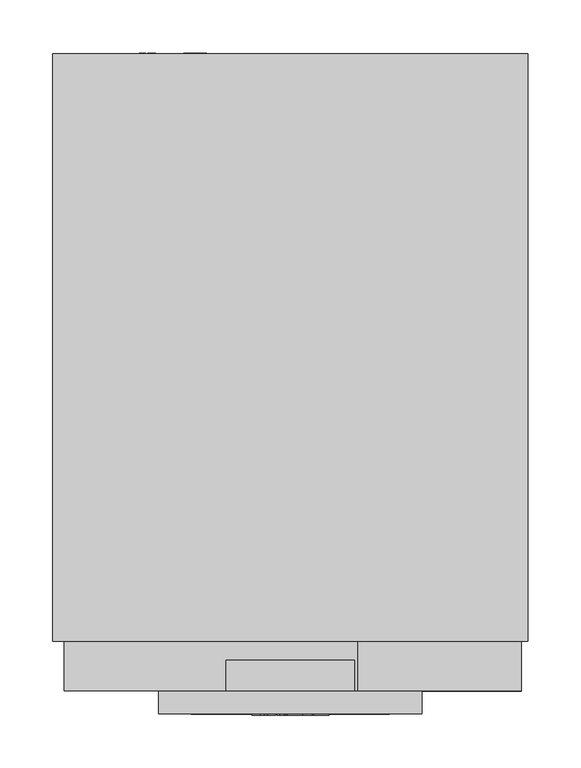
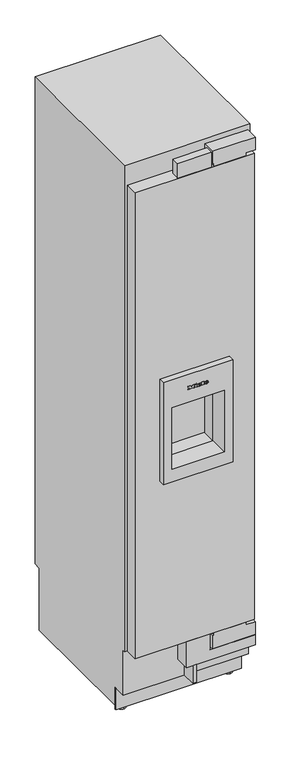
"""IFC4 building model written with IfcOpenShell, lengths in millimetres: proxy geometry, 11503420_USA_F2462Vi : 37246201_USA_11503420_F2462Vi."""

from ifc_helpers import new_model, si_unit, point, frame, frame_2d, origin, place, context, project, spatial, polyline, circle_curve, ellipse_curve, trimmed, segment, composite_curve, outline, extrude, faceted_brep, source, transform, mapped, element, save
from ifc_brep_helpers import plane_surface, cylinder_surface, revolved_surface, extruded_surface, advanced_brep


def specialty_equipment_a8662d09(model_context):
    return source(origin(), model_context, "Body", "SolidModel", [
        extrude(outline(polyline([(-6.5, 54.0), (6.5, 54.0), (6.5, 0.0), (-6.5, 0.0), (-6.5, 54.0)])), frame((0.0, 0.0, 99.0), z_axis=(0.0, 0.0, 1.0), x_axis=(1.0, 0.0, 0.0)), (0.0, 0.0, 1.0), 67.0),
        faceted_brep([(125.0, -21.7, 1295.0), (-125.0, -21.7, 1295.0), (-125.0, -21.7, 908.0), (125.0, -21.7, 908.0), (94.0, -21.7, 1190.0), (94.0, -21.7, 956.0), (-94.0, -21.7, 956.0), (-94.0, -21.7, 1190.0), (125.0, 47.0, 1295.0), (125.0, 47.0, 908.0), (-125.0, 47.0, 908.0), (-125.0, 47.0, 1295.0), (94.0, 47.0, 1190.0), (-94.0, 47.0, 1190.0), (-94.0, 47.0, 956.0), (94.0, 47.0, 956.0), (-94.0, -11.7943775, 1190.0), (94.0, -11.7943775, 1190.0), (-94.0, -11.7943775, 956.0), (94.0, -11.7943775, 956.0)], [[[0, 1, 2, 3], [4, 5, 6, 7]], [[8, 9, 10, 11], [12, 13, 14, 15]], [[0, 3, 9, 8]], [[3, 2, 10, 9]], [[2, 1, 11, 10]], [[1, 0, 8, 11]], [[4, 7, 16, 13, 12, 17]], [[7, 6, 18, 14, 13, 16]], [[6, 5, 19, 15, 14, 18]], [[5, 4, 17, 12, 15, 19]]]),
        extrude(outline(polyline([(2036.0, 214.5), (2036.0, -214.5), (265.0, -214.5), (265.0, 214.5), (2036.0, 214.5)]), holes=[polyline([(1295.0, 125.0), (908.0, 125.0), (908.0, -125.0), (1295.0, -125.0), (1295.0, 125.0)])]), frame((0.0, 0.0, 0.0), z_axis=(0.0, 1.0, 0.0), x_axis=(0.0, 0.0, 1.0)), (0.0, 0.0, 1.0), 47.0),
        faceted_brep([(-158.0, 47.0, 863.0), (-158.0, 47.0, 1335.0), (-158.0, 239.0, 1335.0), (-158.0, 239.0, 987.0), (-158.0, 140.0, 863.0), (158.0, 47.0, 863.0), (158.0, 140.0, 863.0), (158.0, 239.0, 987.0), (158.0, 239.0, 1335.0), (158.0, 47.0, 1335.0), (94.0, 47.0, 1190.0), (94.0, 47.0, 956.0), (-94.0, 47.0, 956.0), (-94.0, 47.0, 1190.0), (94.0, 100.0, 1190.0), (-94.0, 100.0, 1190.0), (-94.0, 100.0, 956.0), (94.0, 100.0, 956.0)], [[[0, 1, 2, 3, 4]], [[5, 6, 7, 8, 9]], [[0, 4, 6, 5]], [[4, 3, 7, 6]], [[3, 2, 8, 7]], [[2, 1, 9, 8]], [[1, 0, 5, 9], [10, 11, 12, 13]], [[14, 15, 16, 17]], [[14, 17, 11, 10]], [[17, 16, 12, 11]], [[16, 15, 13, 12]], [[15, 14, 10, 13]]]),
        extrude(outline(polyline([(-61.0, 29.0), (61.0, 29.0), (61.0, 0.0), (-61.0, 0.0), (-61.0, 29.0)])), frame((0.0, 0.0, 2036.0), z_axis=(0.0, 0.0, 1.0), x_axis=(1.0, 0.0, 0.0)), (0.0, 0.0, 1.0), 56.0),
        advanced_brep(
        [(28.472, -22.7, 1241.344), (28.472, -22.7, 1242.556), (36.5, -22.7, 1242.556), (22.532, -22.7, 1242.556), (25.832, -22.7, 1238.5), (36.296, -22.7, 1241.344), (32.672, -22.7, 1241.344), (29.816, -22.7, 1240.0), (28.472, -22.7, 1244.092), (28.472, -22.7, 1245.4), (30.524, -22.7, 1245.4), (30.524, -22.7, 1244.092), (28.472, -21.7, 1241.344), (29.816, -21.7, 1240.0), (32.672, -21.7, 1241.344), (36.296, -21.7, 1241.344), (25.832, -21.7, 1238.5), (22.532, -21.7, 1242.556), (36.5, -21.7, 1242.556), (28.472, -21.7, 1242.556), (28.472, -21.7, 1244.092), (30.524, -21.7, 1244.092), (30.524, -21.7, 1245.4), (28.472, -21.7, 1245.4)],
        [
            (0, 1),
            (1, 2),
            (2, 3, ellipse_curve(frame((29.516, -22.7, 1242.556), z_axis=(0.0, -1.0, 0.0), x_axis=(-1.0, 0.0, 0.0)), 6.984, 5.772)),
            (3, 4, circle_curve(frame((27.1760655, -22.7, 1242.964), z_axis=(0.0, -1.0, 0.0), x_axis=(0.0, 0.0, -1.0)), 4.6619532)),
            (4, 5, circle_curve(frame((29.3761904, -22.7, 1246.132), z_axis=(0.0, -1.0, 0.0), x_axis=(0.0, 0.0, -1.0)), 8.4147911)),
            (5, 6),
            (6, 7, circle_curve(frame((30.4025882, -22.7, 1242.46), z_axis=(0.0, 1.0, 0.0), x_axis=(0.0, 0.0, -1.0)), 2.5289693)),
            (7, 0, circle_curve(frame((29.816, -22.7, 1241.344), z_axis=(0.0, 1.0, 0.0), x_axis=(0.0, 0.0, -1.0)), 1.344)),
            (8, 9),
            (9, 10, circle_curve(frame((29.498, -22.7, 1245.4), z_axis=(0.0, 1.0, 0.0), x_axis=(0.0, 0.0, -1.0)), 1.026)),
            (10, 11),
            (11, 8),
            (12, 13, circle_curve(frame((29.816, -21.7, 1241.344), z_axis=(0.0, -1.0, 0.0), x_axis=(0.0, 0.0, -1.0)), 1.344)),
            (13, 14, circle_curve(frame((30.4025882, -21.7, 1242.46), z_axis=(0.0, -1.0, 0.0), x_axis=(0.0, 0.0, -1.0)), 2.5289693)),
            (14, 15),
            (15, 16, circle_curve(frame((29.3761904, -21.7, 1246.132), z_axis=(0.0, 1.0, 0.0), x_axis=(0.0, 0.0, -1.0)), 8.4147911)),
            (16, 17, circle_curve(frame((27.1760655, -21.7, 1242.964), z_axis=(0.0, 1.0, 0.0), x_axis=(0.0, 0.0, -1.0)), 4.6619532)),
            (17, 18, ellipse_curve(frame((29.516, -21.7, 1242.556), z_axis=(0.0, 1.0, 0.0), x_axis=(-1.0, 0.0, 0.0)), 6.984, 5.772)),
            (18, 19),
            (19, 12),
            (20, 21),
            (21, 22),
            (22, 23, circle_curve(frame((29.498, -21.7, 1245.4), z_axis=(0.0, -1.0, 0.0), x_axis=(0.0, 0.0, -1.0)), 1.026)),
            (23, 20),
            (0, 12),
            (19, 1),
            (18, 2),
            (5, 15),
            (14, 6),
            (17, 3),
            (13, 7),
            (16, 4),
            (8, 20),
            (23, 9),
            (22, 10),
            (21, 11),
        ],
        [
            plane_surface(frame((28.472, -22.7, 1242.556), z_axis=(0.0, -1.0, 0.0), x_axis=(0.0, 0.0, 1.0))),
            plane_surface(frame((28.472, -21.7, 1242.556), z_axis=(0.0, 1.0, 0.0), x_axis=(0.0, 0.0, -1.0))),
            plane_surface(frame((28.472, -22.7, 1241.344), z_axis=(1.0, 0.0, 0.0), x_axis=(0.0, 1.0, 0.0))),
            plane_surface(frame((28.472, -22.7, 1242.556), z_axis=(0.0, 0.0, -1.0), x_axis=(0.0, 1.0, 0.0))),
            plane_surface(frame((36.296, -22.7, 1241.344), z_axis=(0.0, 0.0, 1.0), x_axis=(0.0, 1.0, 0.0))),
            extruded_surface(trimmed(ellipse_curve(frame((29.516, -20.7, 1242.556), z_axis=(0.0, -1.0, 0.0), x_axis=(-1.0, 0.0, 0.0)), 6.984, 5.772), [point((36.5, -20.7, 1242.556))], [point((22.532, -20.7, 1242.556))], True, "CARTESIAN"), (0.0, -1.0, 0.0), 1.0),
            revolved_surface(polyline([(30.4025882, -21.7, 1239.9310307), (30.4025882, -22.7, 1239.9310307)]), (30.4025882, -21.7, 1242.46), (0.0, 1.0, 0.0)),
            revolved_surface(polyline([(29.816, -21.7, 1240.0), (29.816, -22.7, 1240.0)]), (29.816, -21.7, 1241.344), (0.0, 1.0, 0.0)),
            cylinder_surface(frame((27.1760655, -21.7, 1242.964), z_axis=(0.0, -1.0, 0.0), x_axis=(0.0, 0.0, -1.0)), 4.6619532),
            cylinder_surface(frame((29.3761904, -21.7, 1246.132), z_axis=(0.0, -1.0, 0.0), x_axis=(0.0, 0.0, -1.0)), 8.4147911),
            plane_surface(frame((28.472, -22.7, 1244.092), z_axis=(1.0, 0.0, 0.0), x_axis=(0.0, 1.0, 0.0))),
            revolved_surface(polyline([(29.498, -21.7, 1244.374), (29.498, -22.7, 1244.374)]), (29.498, -21.7, 1245.4), (0.0, 1.0, 0.0)),
            plane_surface(frame((30.524, -22.7, 1245.4), z_axis=(-1.0, 0.0, 0.0), x_axis=(0.0, 1.0, 0.0))),
            plane_surface(frame((30.524, -22.7, 1244.092), z_axis=(0.0, 0.0, 1.0), x_axis=(0.0, 1.0, 0.0))),
        ],
        [
            (0, [[1, 2, 3, 4, 5, 6, 7, 8], [9, 10, 11, 12]]),
            (1, [[13, 14, 15, 16, 17, 18, 19, 20], [21, 22, 23, 24]]),
            (2, [[-1, 25, -20, 26]]),
            (3, [[-2, -26, -19, 27]]),
            (4, [[-6, 28, -15, 29]]),
            (5, [[-3, -27, -18, 30]]),
            (6, [[-7, -29, -14, 31]]),
            (7, [[-8, -31, -13, -25]]),
            (8, [[-4, -30, -17, 32]]),
            (9, [[-5, -32, -16, -28]]),
            (10, [[-9, 33, -24, 34]]),
            (11, [[-10, -34, -23, 35]]),
            (12, [[-11, -35, -22, 36]]),
            (13, [[-12, -36, -21, -33]]),
        ],
    ),
        advanced_brep(
        [(3.428, -22.7, 1241.344), (3.428, -22.7, 1242.556), (11.456, -22.7, 1242.556), (-2.512, -22.7, 1242.556), (0.788, -22.7, 1238.5), (11.252, -22.7, 1241.344), (7.628, -22.7, 1241.344), (4.772, -22.7, 1240.0), (3.428, -22.7, 1244.092), (3.428, -22.7, 1245.4), (5.48, -22.7, 1245.4), (5.48, -22.7, 1244.092), (3.428, -21.7, 1241.344), (4.772, -21.7, 1240.0), (7.628, -21.7, 1241.344), (11.252, -21.7, 1241.344), (0.788, -21.7, 1238.5), (-2.512, -21.7, 1242.556), (11.456, -21.7, 1242.556), (3.428, -21.7, 1242.556), (3.428, -21.7, 1244.092), (5.48, -21.7, 1244.092), (5.48, -21.7, 1245.4), (3.428, -21.7, 1245.4)],
        [
            (0, 1),
            (1, 2),
            (2, 3, ellipse_curve(frame((4.472, -22.7, 1242.556), z_axis=(0.0, -1.0, 0.0), x_axis=(-1.0, 0.0, 0.0)), 6.984, 5.772)),
            (3, 4, circle_curve(frame((2.1320655, -22.7, 1242.964), z_axis=(0.0, -1.0, 0.0), x_axis=(0.0, 0.0, -1.0)), 4.6619532)),
            (4, 5, circle_curve(frame((4.3321904, -22.7, 1246.132), z_axis=(0.0, -1.0, 0.0), x_axis=(0.0, 0.0, -1.0)), 8.4147911)),
            (5, 6),
            (6, 7, circle_curve(frame((5.3585882, -22.7, 1242.46), z_axis=(0.0, 1.0, 0.0), x_axis=(0.0, 0.0, -1.0)), 2.5289693)),
            (7, 0, circle_curve(frame((4.772, -22.7, 1241.344), z_axis=(0.0, 1.0, 0.0), x_axis=(0.0, 0.0, -1.0)), 1.344)),
            (8, 9),
            (9, 10, circle_curve(frame((4.454, -22.7, 1245.4), z_axis=(0.0, 1.0, 0.0), x_axis=(0.0, 0.0, -1.0)), 1.026)),
            (10, 11),
            (11, 8),
            (12, 13, circle_curve(frame((4.772, -21.7, 1241.344), z_axis=(0.0, -1.0, 0.0), x_axis=(0.0, 0.0, -1.0)), 1.344)),
            (13, 14, circle_curve(frame((5.3585882, -21.7, 1242.46), z_axis=(0.0, -1.0, 0.0), x_axis=(0.0, 0.0, -1.0)), 2.5289693)),
            (14, 15),
            (15, 16, circle_curve(frame((4.3321904, -21.7, 1246.132), z_axis=(0.0, 1.0, 0.0), x_axis=(0.0, 0.0, -1.0)), 8.4147911)),
            (16, 17, circle_curve(frame((2.1320655, -21.7, 1242.964), z_axis=(0.0, 1.0, 0.0), x_axis=(0.0, 0.0, -1.0)), 4.6619532)),
            (17, 18, ellipse_curve(frame((4.472, -21.7, 1242.556), z_axis=(0.0, 1.0, 0.0), x_axis=(-1.0, 0.0, 0.0)), 6.984, 5.772)),
            (18, 19),
            (19, 12),
            (20, 21),
            (21, 22),
            (22, 23, circle_curve(frame((4.454, -21.7, 1245.4), z_axis=(0.0, -1.0, 0.0), x_axis=(0.0, 0.0, -1.0)), 1.026)),
            (23, 20),
            (0, 12),
            (19, 1),
            (18, 2),
            (5, 15),
            (14, 6),
            (17, 3),
            (13, 7),
            (16, 4),
            (8, 20),
            (23, 9),
            (22, 10),
            (21, 11),
        ],
        [
            plane_surface(frame((3.428, -22.7, 1242.556), z_axis=(0.0, -1.0, 0.0), x_axis=(0.0, 0.0, 1.0))),
            plane_surface(frame((3.428, -21.7, 1242.556), z_axis=(0.0, 1.0, 0.0), x_axis=(0.0, 0.0, -1.0))),
            plane_surface(frame((3.428, -22.7, 1241.344), z_axis=(1.0, 0.0, 0.0), x_axis=(0.0, 1.0, 0.0))),
            plane_surface(frame((3.428, -22.7, 1242.556), z_axis=(0.0, 0.0, -1.0), x_axis=(0.0, 1.0, 0.0))),
            plane_surface(frame((11.252, -22.7, 1241.344), z_axis=(0.0, 0.0, 1.0), x_axis=(0.0, 1.0, 0.0))),
            extruded_surface(trimmed(ellipse_curve(frame((4.472, -20.7, 1242.556), z_axis=(0.0, -1.0, 0.0), x_axis=(-1.0, 0.0, 0.0)), 6.984, 5.772), [point((11.456, -20.7, 1242.556))], [point((-2.512, -20.7, 1242.556))], True, "CARTESIAN"), (0.0, -1.0, 0.0), 1.0),
            revolved_surface(polyline([(5.3585882, -21.7, 1239.9310307), (5.3585882, -22.7, 1239.9310307)]), (5.3585882, -21.7, 1242.46), (0.0, 1.0, 0.0)),
            revolved_surface(polyline([(4.772, -21.7, 1240.0), (4.772, -22.7, 1240.0)]), (4.772, -21.7, 1241.344), (0.0, 1.0, 0.0)),
            cylinder_surface(frame((2.1320655, -21.7, 1242.964), z_axis=(0.0, -1.0, 0.0), x_axis=(0.0, 0.0, -1.0)), 4.6619532),
            cylinder_surface(frame((4.3321904, -21.7, 1246.132), z_axis=(0.0, -1.0, 0.0), x_axis=(0.0, 0.0, -1.0)), 8.4147911),
            plane_surface(frame((3.428, -22.7, 1244.092), z_axis=(1.0, 0.0, 0.0), x_axis=(0.0, 1.0, 0.0))),
            revolved_surface(polyline([(4.454, -21.7, 1244.374), (4.454, -22.7, 1244.374)]), (4.454, -21.7, 1245.4), (0.0, 1.0, 0.0)),
            plane_surface(frame((5.48, -22.7, 1245.4), z_axis=(-1.0, 0.0, 0.0), x_axis=(0.0, 1.0, 0.0))),
            plane_surface(frame((5.48, -22.7, 1244.092), z_axis=(0.0, 0.0, 1.0), x_axis=(0.0, 1.0, 0.0))),
        ],
        [
            (0, [[1, 2, 3, 4, 5, 6, 7, 8], [9, 10, 11, 12]]),
            (1, [[13, 14, 15, 16, 17, 18, 19, 20], [21, 22, 23, 24]]),
            (2, [[-1, 25, -20, 26]]),
            (3, [[-2, -26, -19, 27]]),
            (4, [[-6, 28, -15, 29]]),
            (5, [[-3, -27, -18, 30]]),
            (6, [[-7, -29, -14, 31]]),
            (7, [[-8, -31, -13, -25]]),
            (8, [[-4, -30, -17, 32]]),
            (9, [[-5, -32, -16, -28]]),
            (10, [[-9, 33, -24, 34]]),
            (11, [[-10, -34, -23, 35]]),
            (12, [[-11, -35, -22, 36]]),
            (13, [[-12, -36, -21, -33]]),
        ],
    ),
        extrude(outline(polyline([(1249.792, -9.688), (1247.848, -8.776), (1249.744, -4.708), (1251.688, -5.608), (1249.792, -9.688)])), frame((0.0, -22.7, 0.0), z_axis=(0.0, 1.0, 0.0), x_axis=(0.0, 0.0, 1.0)), (0.0, 0.0, 1.0), 1.0),
        extrude(outline(polyline([(1247.584, -12.652), (1245.436, -12.652), (1245.436, -11.224), (1240.516, -11.224), (1240.516, -12.652), (1238.5, -12.652), (1238.5, -3.184), (1240.516, -3.184), (1240.516, -4.576), (1247.584, -4.576), (1247.584, -12.652)])), frame((0.0, -22.7, 0.0), z_axis=(0.0, 1.0, 0.0), x_axis=(0.0, 0.0, 1.0)), (0.0, 0.0, 1.0), 1.0),
        extrude(outline(polyline([(1248.544, 12.128), (1248.544, 13.568), (1240.516, 13.568), (1240.516, 12.128), (1238.5, 12.128), (1238.5, 21.86), (1240.516, 21.86), (1240.516, 20.384), (1250.5, 20.384), (1250.5, 12.128), (1248.544, 12.128)])), frame((0.0, -22.7, 0.0), z_axis=(0.0, 1.0, 0.0), x_axis=(0.0, 0.0, 1.0)), (0.0, 0.0, 1.0), 1.0),
        extrude(outline(polyline([(1248.544, -36.568), (1248.544, -35.116), (1240.516, -35.116), (1240.516, -36.568), (1238.5, -36.568), (1238.5, -31.288), (1240.516, -31.288), (1240.516, -32.728), (1245.5951247, -32.728), (1238.5, -27.364), (1245.8152223, -21.976), (1240.516, -21.976), (1240.516, -23.452), (1238.5, -23.452), (1238.5, -13.876), (1240.516, -13.876), (1240.516, -15.4), (1248.544, -15.4), (1248.544, -13.876), (1250.5, -13.876), (1250.5, -21.184), (1246.0, -24.688), (1250.5, -28.204), (1250.5, -36.568), (1248.544, -36.568)])), frame((0.0, -22.7, 0.0), z_axis=(0.0, 1.0, 0.0), x_axis=(0.0, 0.0, 1.0)), (0.0, 0.0, 1.0), 1.0),
        extrude(outline(polyline([(519.0, 1998.0), (519.0, 1799.0), (447.0526316, 1799.0), (422.0, 1867.0), (201.7448904, 1867.0), (157.0, 1939.0), (87.0, 1949.0), (87.0, 1998.0), (519.0, 1998.0)])), frame((-179.5, 0.0, 0.0), z_axis=(1.0, 0.0, 0.0), x_axis=(0.0, 1.0, 0.0)), (0.0, 0.0, 1.0), 359.0),
        extrude(outline(polyline([(196.9886114, 1875.0), (195.809433, 1875.0), (158.6921935, 1934.4), (159.8713719, 1934.4), (196.9886114, 1875.0)])), frame((-69.0, 0.0, 0.0), z_axis=(1.0, 0.0, 0.0), x_axis=(0.0, 1.0, 0.0)), (0.0, 0.0, 1.0), 138.0),
        extrude(outline(polyline([(46.0510837, -89.101717), (37.4134902, -91.1745179), (46.0453554, -93.6868463), (46.0453554, -95.5601414), (37.4089549, -98.0799633), (46.0493903, -100.1581876), (46.0493903, -101.4649805), (36.0005458, -98.7156324), (36.0005458, -97.372208), (44.8261022, -94.6342221), (35.9987467, -92.0620509), (35.9987287, -90.5451466), (46.0510837, -87.800191), (46.0510837, -89.101717)])), frame((0.0, 604.0, 0.0), z_axis=(0.0, 1.0, 0.0), x_axis=(0.0, 0.0, 1.0)), (0.0, 0.0, 1.0), 1.0),
        extrude(outline(polyline([(46.0485238, -80.7401503), (41.1363122, -80.7401503), (46.0468162, -85.884602), (46.0468162, -87.6328316), (41.9156889, -83.3260313), (36.000035, -87.8032231), (36.000035, -86.2795519), (41.0742849, -82.4391666), (39.4525334, -80.7395503), (35.9999292, -80.7395503), (35.9999292, -79.4795491), (46.0485238, -79.4795491), (46.0485238, -80.7401503)])), frame((0.0, 604.0, 0.0), z_axis=(0.0, 1.0, 0.0), x_axis=(0.0, 0.0, 1.0)), (0.0, 0.0, 1.0), 1.0),
        extrude(outline(composite_curve([segment(trimmed(circle_curve(frame_2d((41.0, -90.0)), 7.5), [point((33.5, -90.0))], [point((48.5, -90.0))], False, "CARTESIAN"), True, "CONTINUOUS"), segment(trimmed(circle_curve(frame_2d((41.0, -90.0)), 7.5), [point((48.5, -90.0))], [point((33.5, -90.0))], False, "CARTESIAN"), True, "CONTINUOUS")], self_intersect=False)), frame((0.0, 577.0, 0.0), z_axis=(0.0, 1.0, 0.0), x_axis=(0.0, 0.0, 1.0)), (0.0, 0.0, 1.0), 27.0),
        extrude(outline(polyline([(2095.0, 219.0), (2095.0, 64.0), (2047.0, 64.0), (2047.0, 70.0), (2036.5, 70.0), (2036.5, 185.0), (2047.0, 185.0), (2047.0, 219.0), (2095.0, 219.0)])), frame((0.0, 0.0, 0.0), z_axis=(0.0, 1.0, 0.0), x_axis=(0.0, 0.0, 1.0)), (0.0, 0.0, 1.0), 47.0),
        extrude(outline(polyline([(254.0, 64.0), (206.0, 64.0), (206.0, 219.0), (254.0, 219.0), (254.0, 185.0), (264.0, 185.0), (264.0, 70.0), (254.0, 70.0), (254.0, 64.0)])), frame((0.0, 0.0, 0.0), z_axis=(0.0, 1.0, 0.0), x_axis=(0.0, 0.0, 1.0)), (0.0, 0.0, 1.0), 54.0),
        extrude(outline(polyline([(166.0, -28.5), (166.0, 219.0), (205.0, 219.0), (205.0, 55.5), (265.0, 55.5), (265.0, -28.5), (166.0, -28.5)])), frame((0.0, 0.0, 0.0), z_axis=(0.0, 1.0, 0.0), x_axis=(0.0, 0.0, 1.0)), (0.0, 0.0, 1.0), 54.0),
        extrude(outline(polyline([(99.0373308, -135.2645771), (97.7615342, -135.2645771), (97.7615342, -129.3195541), (94.7968516, -129.3195541), (94.7968516, -134.969579), (93.5246295, -134.969579), (93.5246295, -129.3415693), (90.2570046, -129.3415693), (90.2570046, -135.4619689), (88.9546219, -135.4619689), (88.9546219, -128.0443524), (99.0373308, -128.0443524), (99.0373308, -135.2645771)])), frame((0.0, 604.0, 0.0), z_axis=(0.0, 1.0, 0.0), x_axis=(0.0, 0.0, 1.0)), (0.0, 0.0, 1.0), 1.0),
        extrude(outline(polyline([(99.0458, -138.5619704), (90.2663944, -138.5619704), (90.2663944, -143.6145879), (89.0134802, -143.6145879), (89.0134802, -137.3423809), (99.0458, -137.3423809), (99.0458, -138.5619704)])), frame((0.0, 604.0, 0.0), z_axis=(0.0, 1.0, 0.0), x_axis=(0.0, 0.0, 1.0)), (0.0, 0.0, 1.0), 1.0),
        extrude(outline(composite_curve([segment(trimmed(circle_curve(frame_2d((94.0, -135.5)), 7.5), [point((86.5, -135.5))], [point((101.5, -135.5))], False, "CARTESIAN"), True, "CONTINUOUS"), segment(trimmed(circle_curve(frame_2d((94.0, -135.5)), 7.5), [point((101.5, -135.5))], [point((86.5, -135.5))], False, "CARTESIAN"), True, "CONTINUOUS")], self_intersect=False)), frame((0.0, 577.0, 0.0), z_axis=(0.0, 1.0, 0.0), x_axis=(0.0, 0.0, 1.0)), (0.0, 0.0, 1.0), 27.0),
        extrude(outline(polyline([(-225.5, 104.0), (225.5, 104.0), (225.5, 99.0), (-225.5, 99.0), (-225.5, 104.0)])), frame((0.0, 0.0, 14.0), z_axis=(0.0, 0.0, 1.0), x_axis=(1.0, 0.0, 0.0)), (0.0, 0.0, 1.0), 83.0),
        advanced_brep(
        [(-191.5, 139.0, 0.0), (-191.5, 109.0, 0.0), (-191.5, 139.0, 7.0), (-191.5, 109.0, 7.0), (-191.5, 128.7, 7.0), (-191.5, 119.3, 7.0), (-191.5, 128.7, 28.0), (-191.5, 119.3, 28.0)],
        [
            (0, 1, circle_curve(frame((-191.5, 124.0, 0.0), z_axis=(0.0, 0.0, -1.0), x_axis=(1.0, 0.0, 0.0)), 15.0)),
            (1, 0, circle_curve(frame((-191.5, 124.0, 0.0), z_axis=(0.0, 0.0, -1.0), x_axis=(1.0, 0.0, 0.0)), 15.0)),
            (2, 3, circle_curve(frame((-191.5, 124.0, 7.0), z_axis=(0.0, 0.0, 1.0), x_axis=(1.0, 0.0, 0.0)), 15.0)),
            (3, 2, circle_curve(frame((-191.5, 124.0, 7.0), z_axis=(0.0, 0.0, 1.0), x_axis=(1.0, 0.0, 0.0)), 15.0)),
            (4, 5, circle_curve(frame((-191.5, 124.0, 7.0), z_axis=(0.0, 0.0, -1.0), x_axis=(0.0, -1.0, 0.0)), 4.7)),
            (5, 4, circle_curve(frame((-191.5, 124.0, 7.0), z_axis=(0.0, 0.0, -1.0), x_axis=(0.0, -1.0, 0.0)), 4.7)),
            (0, 2),
            (3, 1),
            (6, 7, circle_curve(frame((-191.5, 124.0, 28.0), z_axis=(0.0, 0.0, 1.0), x_axis=(0.0, -1.0, 0.0)), 4.7)),
            (7, 6, circle_curve(frame((-191.5, 124.0, 28.0), z_axis=(0.0, 0.0, 1.0), x_axis=(0.0, -1.0, 0.0)), 4.7)),
            (7, 5),
            (4, 6),
        ],
        [
            plane_surface(frame((-176.5, 124.0, 0.0), z_axis=(0.0, 0.0, -1.0), x_axis=(0.0, -1.0, 0.0))),
            plane_surface(frame((-176.5, 124.0, 7.0), z_axis=(0.0, 0.0, 1.0), x_axis=(0.0, 1.0, 0.0))),
            cylinder_surface(frame((-191.5, 124.0, 7.0), z_axis=(0.0, 0.0, -1.0), x_axis=(1.0, 0.0, 0.0)), 15.0),
            plane_surface(frame((-191.5, 119.3, 28.0), z_axis=(0.0, 0.0, 1.0), x_axis=(1.0, 0.0, 0.0))),
            cylinder_surface(frame((-191.5, 124.0, 28.0), z_axis=(0.0, 0.0, -1.0), x_axis=(0.0, -1.0, 0.0)), 4.7),
        ],
        [
            (0, [[1, 2]]),
            (1, [[3, 4], [5, 6]]),
            (2, [[-1, 7, -4, 8]]),
            (2, [[-2, -8, -3, -7]]),
            (3, [[9, 10]]),
            (4, [[-10, 11, -5, 12]]),
            (4, [[-9, -12, -6, -11]]),
        ],
    ),
        advanced_brep(
        [(191.5, 139.0, 0.0), (191.5, 109.0, 0.0), (191.5, 139.0, 7.0), (191.5, 109.0, 7.0), (191.5, 128.7, 7.0), (191.5, 119.3, 7.0), (191.5, 128.7, 28.0), (191.5, 119.3, 28.0)],
        [
            (0, 1, circle_curve(frame((191.5, 124.0, 0.0), z_axis=(0.0, 0.0, -1.0), x_axis=(1.0, 0.0, 0.0)), 15.0)),
            (1, 0, circle_curve(frame((191.5, 124.0, 0.0), z_axis=(0.0, 0.0, -1.0), x_axis=(1.0, 0.0, 0.0)), 15.0)),
            (2, 3, circle_curve(frame((191.5, 124.0, 7.0), z_axis=(0.0, 0.0, 1.0), x_axis=(1.0, 0.0, 0.0)), 15.0)),
            (3, 2, circle_curve(frame((191.5, 124.0, 7.0), z_axis=(0.0, 0.0, 1.0), x_axis=(1.0, 0.0, 0.0)), 15.0)),
            (4, 5, circle_curve(frame((191.5, 124.0, 7.0), z_axis=(0.0, 0.0, -1.0), x_axis=(0.0, -1.0, 0.0)), 4.7)),
            (5, 4, circle_curve(frame((191.5, 124.0, 7.0), z_axis=(0.0, 0.0, -1.0), x_axis=(0.0, -1.0, 0.0)), 4.7)),
            (0, 2),
            (3, 1),
            (6, 7, circle_curve(frame((191.5, 124.0, 28.0), z_axis=(0.0, 0.0, 1.0), x_axis=(0.0, -1.0, 0.0)), 4.7)),
            (7, 6, circle_curve(frame((191.5, 124.0, 28.0), z_axis=(0.0, 0.0, 1.0), x_axis=(0.0, -1.0, 0.0)), 4.7)),
            (7, 5),
            (4, 6),
        ],
        [
            plane_surface(frame((-176.5, 124.0, 0.0), z_axis=(0.0, 0.0, -1.0), x_axis=(0.0, -1.0, 0.0))),
            plane_surface(frame((-176.5, 124.0, 7.0), z_axis=(0.0, 0.0, 1.0), x_axis=(0.0, 1.0, 0.0))),
            cylinder_surface(frame((191.5, 124.0, 7.0), z_axis=(0.0, 0.0, -1.0), x_axis=(1.0, 0.0, 0.0)), 15.0),
            plane_surface(frame((-191.5, 119.3, 28.0), z_axis=(0.0, 0.0, 1.0), x_axis=(1.0, 0.0, 0.0))),
            cylinder_surface(frame((191.5, 124.0, 28.0), z_axis=(0.0, 0.0, -1.0), x_axis=(0.0, -1.0, 0.0)), 4.7),
        ],
        [
            (0, [[1, 2]]),
            (1, [[3, 4], [5, 6]]),
            (2, [[-1, 7, -4, 8]]),
            (2, [[-2, -8, -3, -7]]),
            (3, [[9, 10]]),
            (4, [[-10, 11, -5, 12]]),
            (4, [[-9, -12, -6, -11]]),
        ],
    ),
        advanced_brep(
        [(225.5, 47.0, 2114.0), (225.5, 47.0, 267.0), (225.5, 54.0, 267.0), (225.5, 54.0, 97.0), (225.5, 104.0, 97.0), (225.5, 104.0, 28.0), (225.5, 577.0, 28.0), (225.5, 577.0, 263.0), (225.5, 604.0, 263.0), (225.5, 604.0, 2114.0), (-225.5, 47.0, 2114.0), (-225.5, 604.0, 2114.0), (-225.5, 604.0, 263.0), (-225.5, 577.0, 263.0), (-225.5, 577.0, 28.0), (-225.5, 104.0, 28.0), (-225.5, 104.0, 97.0), (-225.5, 54.0, 97.0), (-225.5, 54.0, 267.0), (-225.5, 47.0, 267.0), (165.5, 577.0, 28.0), (165.5, 577.0, 14.0), (-165.5, 577.0, 14.0), (-165.5, 577.0, 28.0), (165.5, 104.0, 14.0), (-165.5, 104.0, 14.0), (-165.5, 104.0, 28.0), (165.5, 104.0, 28.0), (179.5, 47.0, 1998.0), (179.5, 47.0, 343.0), (-179.5, 47.0, 343.0), (-179.5, 47.0, 1998.0), (179.5, 519.0, 1998.0), (-179.5, 519.0, 1998.0), (-179.5, 519.0, 343.0), (179.5, 519.0, 343.0), (-184.0, 202.8193473, 28.0), (-203.0, 202.8193473, 28.0), (-203.0, 153.1806527, 28.0), (-184.0, 153.1806527, 28.0), (-203.5, 525.8193473, 28.0), (-203.5, 476.1806527, 28.0), (-187.5, 476.1806527, 28.0), (-187.5, 525.8193473, 28.0), (203.0, 153.1806527, 28.0), (203.0, 202.8193473, 28.0), (184.0, 202.8193473, 28.0), (184.0, 153.1806527, 28.0), (187.5, 525.8193473, 28.0), (187.5, 476.1806527, 28.0), (203.5, 476.1806527, 28.0), (203.5, 525.8193473, 28.0), (-184.0, 203.0, 25.0), (-184.0, 153.0, 25.0), (-203.0, 153.0, 25.0), (-203.0, 203.0, 25.0), (-184.0, 178.0, 25.0), (-203.0, 178.0, 25.0), (203.0, 178.0, 25.0), (203.0, 153.0, 25.0), (203.0, 203.0, 25.0), (184.0, 203.0, 25.0), (184.0, 153.0, 25.0), (184.0, 178.0, 25.0), (-203.5, 526.0, 25.0), (-203.5, 476.0, 25.0), (-203.5, 501.0, 25.0), (-187.5, 526.0, 25.0), (-187.5, 476.0, 25.0), (-187.5, 501.0, 25.0), (187.5, 526.0, 25.0), (187.5, 476.0, 25.0), (187.5, 501.0, 25.0), (203.5, 526.0, 25.0), (203.5, 476.0, 25.0), (203.5, 501.0, 25.0)],
        [
            (0, 1),
            (1, 2),
            (2, 3),
            (3, 4),
            (4, 5),
            (5, 6),
            (6, 7),
            (7, 8),
            (8, 9),
            (9, 0),
            (10, 11),
            (11, 12),
            (12, 13),
            (13, 14),
            (14, 15),
            (15, 16),
            (16, 17),
            (17, 18),
            (18, 19),
            (19, 10),
            (9, 11),
            (10, 0),
            (8, 12),
            (7, 13),
            (6, 20),
            (20, 21),
            (21, 22),
            (22, 23),
            (23, 14),
            (21, 24),
            (24, 25),
            (25, 22),
            (4, 16),
            (15, 26),
            (26, 25),
            (24, 27),
            (27, 5),
            (3, 17),
            (2, 18),
            (1, 19),
            (28, 29),
            (29, 30),
            (30, 31),
            (31, 28),
            (32, 33),
            (33, 34),
            (34, 35),
            (35, 32),
            (35, 29),
            (28, 32),
            (34, 30),
            (33, 31),
            (23, 26),
            (36, 37),
            (37, 38),
            (38, 39),
            (39, 36),
            (40, 41),
            (41, 42),
            (42, 43),
            (43, 40),
            (27, 20),
            (44, 45),
            (45, 46),
            (46, 47),
            (47, 44),
            (48, 49),
            (49, 50),
            (50, 51),
            (51, 48),
            (52, 53, circle_curve(frame((-184.0, 178.0, 25.0), z_axis=(-1.0, 0.0, 0.0), x_axis=(0.0, -1.0, 0.0)), 25.0)),
            (53, 54),
            (54, 55, circle_curve(frame((-203.0, 178.0, 25.0), z_axis=(1.0, 0.0, 0.0), x_axis=(0.0, -1.0, 0.0)), 25.0)),
            (55, 52),
            (53, 39, circle_curve(frame((-184.0, 178.0, 25.0), z_axis=(-1.0, 0.0, 0.0), x_axis=(0.0, -1.0, 0.0)), 25.0)),
            (38, 54, circle_curve(frame((-203.0, 178.0, 25.0), z_axis=(1.0, 0.0, 0.0), x_axis=(0.0, -1.0, 0.0)), 25.0)),
            (55, 37, circle_curve(frame((-203.0, 178.0, 25.0), z_axis=(1.0, 0.0, 0.0), x_axis=(0.0, -1.0, 0.0)), 25.0)),
            (36, 52, circle_curve(frame((-184.0, 178.0, 25.0), z_axis=(-1.0, 0.0, 0.0), x_axis=(0.0, -1.0, 0.0)), 25.0)),
            (52, 56),
            (56, 53),
            (54, 57),
            (57, 55),
            (58, 59),
            (59, 60, circle_curve(frame((203.0, 178.0, 25.0), z_axis=(1.0, 0.0, 0.0), x_axis=(0.0, -1.0, 0.0)), 25.0)),
            (60, 58),
            (60, 45, circle_curve(frame((203.0, 178.0, 25.0), z_axis=(1.0, 0.0, 0.0), x_axis=(0.0, -1.0, 0.0)), 25.0)),
            (44, 59, circle_curve(frame((203.0, 178.0, 25.0), z_axis=(1.0, 0.0, 0.0), x_axis=(0.0, -1.0, 0.0)), 25.0)),
            (61, 62, circle_curve(frame((184.0, 178.0, 25.0), z_axis=(-1.0, 0.0, 0.0), x_axis=(0.0, -1.0, 0.0)), 25.0)),
            (62, 63),
            (63, 61),
            (62, 47, circle_curve(frame((184.0, 178.0, 25.0), z_axis=(-1.0, 0.0, 0.0), x_axis=(0.0, -1.0, 0.0)), 25.0)),
            (46, 61, circle_curve(frame((184.0, 178.0, 25.0), z_axis=(-1.0, 0.0, 0.0), x_axis=(0.0, -1.0, 0.0)), 25.0)),
            (64, 65, circle_curve(frame((-203.5, 501.0, 25.0), z_axis=(-1.0, 0.0, 0.0), x_axis=(0.0, -1.0, 0.0)), 25.0)),
            (65, 66),
            (66, 64),
            (65, 41, circle_curve(frame((-203.5, 501.0, 25.0), z_axis=(-1.0, 0.0, 0.0), x_axis=(0.0, -1.0, 0.0)), 25.0)),
            (40, 64, circle_curve(frame((-203.5, 501.0, 25.0), z_axis=(-1.0, 0.0, 0.0), x_axis=(0.0, -1.0, 0.0)), 25.0)),
            (64, 67),
            (67, 68, circle_curve(frame((-187.5, 501.0, 25.0), z_axis=(-1.0, 0.0, 0.0), x_axis=(0.0, -1.0, 0.0)), 25.0)),
            (68, 65),
            (43, 67, circle_curve(frame((-187.5, 501.0, 25.0), z_axis=(-1.0, 0.0, 0.0), x_axis=(0.0, -1.0, 0.0)), 25.0)),
            (68, 42, circle_curve(frame((-187.5, 501.0, 25.0), z_axis=(-1.0, 0.0, 0.0), x_axis=(0.0, -1.0, 0.0)), 25.0)),
            (67, 69),
            (69, 68),
            (70, 71, circle_curve(frame((187.5, 501.0, 25.0), z_axis=(-1.0, 0.0, 0.0), x_axis=(0.0, -1.0, 0.0)), 25.0)),
            (71, 72),
            (72, 70),
            (71, 49, circle_curve(frame((187.5, 501.0, 25.0), z_axis=(-1.0, 0.0, 0.0), x_axis=(0.0, -1.0, 0.0)), 25.0)),
            (48, 70, circle_curve(frame((187.5, 501.0, 25.0), z_axis=(-1.0, 0.0, 0.0), x_axis=(0.0, -1.0, 0.0)), 25.0)),
            (70, 73),
            (73, 74, circle_curve(frame((203.5, 501.0, 25.0), z_axis=(-1.0, 0.0, 0.0), x_axis=(0.0, -1.0, 0.0)), 25.0)),
            (74, 71),
            (51, 73, circle_curve(frame((203.5, 501.0, 25.0), z_axis=(-1.0, 0.0, 0.0), x_axis=(0.0, -1.0, 0.0)), 25.0)),
            (74, 50, circle_curve(frame((203.5, 501.0, 25.0), z_axis=(-1.0, 0.0, 0.0), x_axis=(0.0, -1.0, 0.0)), 25.0)),
            (73, 75),
            (75, 74),
            (59, 62),
            (61, 60),
        ],
        [
            plane_surface(frame((225.5, 604.0, 2114.0), z_axis=(1.0, 0.0, 0.0), x_axis=(0.0, -1.0, 0.0))),
            plane_surface(frame((-225.5, 604.0, 2114.0), z_axis=(-1.0, 0.0, 0.0), x_axis=(0.0, 1.0, 0.0))),
            plane_surface(frame((-225.5, 47.0, 2114.0), z_axis=(0.0, 0.0, 1.0), x_axis=(1.0, 0.0, 0.0))),
            plane_surface(frame((-225.5, 604.0, 2114.0), z_axis=(0.0, 1.0, 0.0), x_axis=(1.0, 0.0, 0.0))),
            plane_surface(frame((-225.5, 604.0, 263.0), z_axis=(0.0, 0.0, -1.0), x_axis=(1.0, 0.0, 0.0))),
            plane_surface(frame((-225.5, 577.0, 263.0), z_axis=(0.0, 1.0, 0.0), x_axis=(1.0, 0.0, 0.0))),
            plane_surface(frame((-225.5, 577.0, 14.0), z_axis=(0.0, 0.0, -1.0), x_axis=(1.0, 0.0, 0.0))),
            plane_surface(frame((-225.5, 104.0, 14.0), z_axis=(0.0, -1.0, 0.0), x_axis=(1.0, 0.0, 0.0))),
            plane_surface(frame((-225.5, 104.0, 97.0), z_axis=(0.0, 0.0, -1.0), x_axis=(1.0, 0.0, 0.0))),
            plane_surface(frame((-225.5, 54.0, 97.0), z_axis=(0.0, -1.0, 0.0), x_axis=(1.0, 0.0, 0.0))),
            plane_surface(frame((-225.5, 54.0, 267.0), z_axis=(0.0, 0.0, -1.0), x_axis=(1.0, 0.0, 0.0))),
            plane_surface(frame((-225.5, 47.0, 267.0), z_axis=(0.0, -1.0, 0.0), x_axis=(1.0, 0.0, 0.0))),
            plane_surface(frame((179.5, 519.0, 1998.0), z_axis=(0.0, -1.0, 0.0), x_axis=(0.0, 0.0, -1.0))),
            plane_surface(frame((179.5, 519.0, 1998.0), z_axis=(-1.0, 0.0, 0.0), x_axis=(0.0, -1.0, 0.0))),
            plane_surface(frame((179.5, 519.0, 343.0), z_axis=(0.0, 0.0, 1.0), x_axis=(0.0, -1.0, 0.0))),
            plane_surface(frame((-179.5, 519.0, 343.0), z_axis=(1.0, 0.0, 0.0), x_axis=(0.0, -1.0, 0.0))),
            plane_surface(frame((-179.5, 519.0, 1998.0), z_axis=(0.0, 0.0, -1.0), x_axis=(0.0, -1.0, 0.0))),
            plane_surface(frame((-225.5, 604.0, 28.0), z_axis=(0.0, 0.0, -1.0), x_axis=(-1.0, 0.0, 0.0))),
            plane_surface(frame((-165.5, 104.0, 28.0), z_axis=(-1.0, 0.0, 0.0), x_axis=(0.0, 0.0, -1.0))),
            plane_surface(frame((165.5, 604.0, 28.0), z_axis=(1.0, 0.0, 0.0), x_axis=(0.0, 0.0, -1.0))),
            cylinder_surface(frame((-318.1988927, 178.0, 25.0), z_axis=(1.0, 0.0, 0.0), x_axis=(0.0, -1.0, 0.0)), 25.0),
            plane_surface(frame((-184.0, 178.0, 25.0), z_axis=(1.0, 0.0, 0.0), x_axis=(0.0, -1.0, 0.0))),
            plane_surface(frame((-203.0, 178.0, 25.0), z_axis=(-1.0, 0.0, 0.0), x_axis=(0.0, -1.0, 0.0))),
            plane_surface(frame((203.0, 178.0, 25.0), z_axis=(1.0, 0.0, 0.0), x_axis=(0.0, -1.0, 0.0))),
            plane_surface(frame((184.0, 178.0, 25.0), z_axis=(-1.0, 0.0, 0.0), x_axis=(0.0, -1.0, 0.0))),
            plane_surface(frame((-203.5, 501.0, 25.0), z_axis=(-1.0, 0.0, 0.0), x_axis=(0.0, -1.0, 0.0))),
            cylinder_surface(frame((-318.1988927, 501.0, 25.0), z_axis=(1.0, 0.0, 0.0), x_axis=(0.0, -1.0, 0.0)), 25.0),
            plane_surface(frame((-187.5, 501.0, 25.0), z_axis=(1.0, 0.0, 0.0), x_axis=(0.0, -1.0, 0.0))),
            plane_surface(frame((187.5, 501.0, 25.0), z_axis=(-1.0, 0.0, 0.0), x_axis=(0.0, -1.0, 0.0))),
            plane_surface(frame((203.5, 501.0, 25.0), z_axis=(1.0, 0.0, 0.0), x_axis=(0.0, -1.0, 0.0))),
        ],
        [
            (0, [[1, 2, 3, 4, 5, 6, 7, 8, 9, 10]]),
            (1, [[11, 12, 13, 14, 15, 16, 17, 18, 19, 20]]),
            (2, [[-10, 21, -11, 22]]),
            (3, [[-9, 23, -12, -21]]),
            (4, [[-8, 24, -13, -23]]),
            (5, [[-24, -7, 25, 26, 27, 28, 29, -14]]),
            (6, [[-27, 30, 31, 32]]),
            (7, [[33, -16, 34, 35, -31, 36, 37, -5]]),
            (8, [[-4, 38, -17, -33]]),
            (9, [[-3, 39, -18, -38]]),
            (10, [[-2, 40, -19, -39]]),
            (11, [[-1, -22, -20, -40], [41, 42, 43, 44]]),
            (12, [[45, 46, 47, 48]]),
            (13, [[-48, 49, -41, 50]]),
            (14, [[-47, 51, -42, -49]]),
            (15, [[-46, 52, -43, -51]]),
            (16, [[-45, -50, -44, -52]]),
            (17, [[53, -34, -15, -29], [54, 55, 56, 57], [58, 59, 60, 61]]),
            (17, [[62, -25, -6, -37], [63, 64, 65, 66], [67, 68, 69, 70]]),
            (18, [[-53, -28, -32, -35]]),
            (19, [[-62, -36, -30, -26]]),
            (20, [[71, 72, 73, 74]]),
            (20, [[-72, 75, -56, 76]]),
            (20, [[-74, 77, -54, 78]]),
            (21, [[-71, 79, 80]]),
            (21, [[-80, -79, -78, -57, -75]]),
            (22, [[-73, 81, 82]]),
            (22, [[-81, -76, -55, -77, -82]]),
            (23, [[83, 84, 85]]),
            (23, [[-83, -85, 86, -63, 87]]),
            (24, [[88, 89, 90]]),
            (24, [[-89, 91, -65, 92, -90]]),
            (25, [[93, 94, 95]]),
            (25, [[-94, 96, -58, 97, -95]]),
            (26, [[-93, 98, 99, 100]]),
            (26, [[-98, -97, -61, 101]]),
            (26, [[-100, 102, -59, -96]]),
            (27, [[-99, 103, 104]]),
            (27, [[-104, -103, -101, -60, -102]]),
            (28, [[105, 106, 107]]),
            (28, [[-106, 108, -67, 109, -107]]),
            (26, [[-105, 110, 111, 112]]),
            (26, [[-110, -109, -70, 113]]),
            (26, [[-112, 114, -68, -108]]),
            (29, [[-111, 115, 116]]),
            (29, [[-116, -115, -113, -69, -114]]),
            (20, [[-84, 117, -88, 118]]),
            (20, [[-117, -87, -66, -91]]),
            (20, [[-118, -92, -64, -86]]),
        ],
    ),
    ])


if __name__ == "__main__":
    model = new_model("IFC4")
    model_context = context("Model", 3, world=origin())
    ifc_project = project(units=[si_unit("LENGTHUNIT", "METRE", prefix="MILLI")], contexts=[model_context])
    site = spatial("IfcSite", under=ifc_project)
    building = spatial("IfcBuilding", under=site)
    placement = place(None, origin())
    specialty_equipment_shape = specialty_equipment_a8662d09(model_context)
    element("IfcBuildingElementProxy", 1, Name="11503420_USA_F2462Vi : 37246201_USA_11503420_F2462Vi", ObjectType="11503420_USA_F2462Vi : 37246201_USA_11503420_F2462Vi", at=placement, inside=building, context=model_context, shape_type="MappedRepresentation", body=[
        mapped(specialty_equipment_shape, transform((0.0, 0.0, 0.0), x_axis=(1.0, 0.0, 0.0), y_axis=(0.0, 1.0, 0.0), z_axis=(0.0, 0.0, 1.0))),
    ])
    save(model, "model.ifc")
